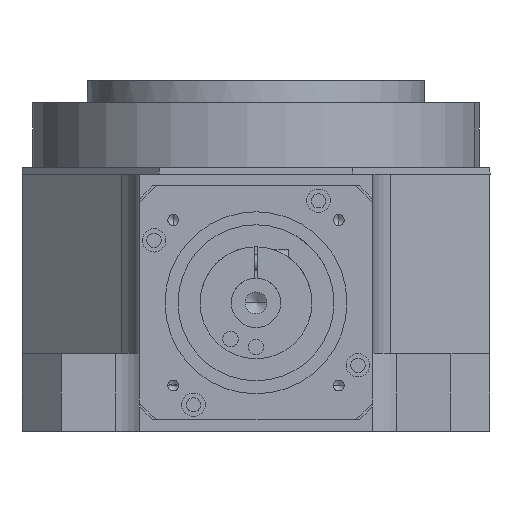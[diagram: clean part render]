
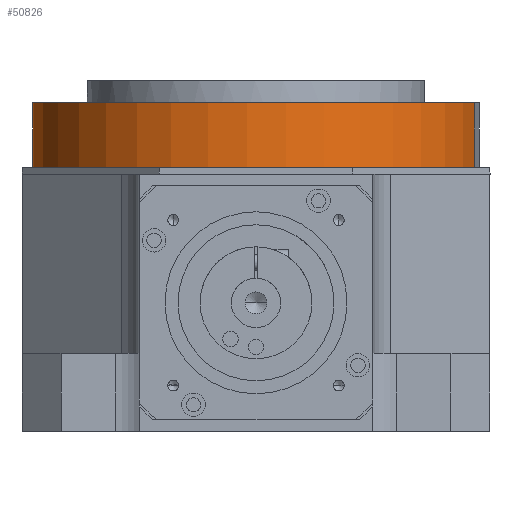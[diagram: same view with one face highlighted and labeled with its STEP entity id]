
A CAD part, front view. The second image highlights one B-rep face of the part: STEP entity #50826.
In plain terms, the highlighted cylindrical face has radius 86 mm (diameter 172 mm), a partial arc.
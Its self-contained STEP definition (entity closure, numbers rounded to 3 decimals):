
#1852 = DIRECTION ( 'NONE',  ( 1., 0., 0. ) ) ;
#2486 = CARTESIAN_POINT ( 'NONE',  ( 86., 0., 2.5 ) ) ;
#2732 = AXIS2_PLACEMENT_3D ( 'NONE', #12689, #39992, #16604 ) ;
#5552 = ORIENTED_EDGE ( 'NONE', *, *, #32516, .F. ) ;
#6860 = CARTESIAN_POINT ( 'NONE',  ( -86., 0., 2.5 ) ) ;
#7748 = CYLINDRICAL_SURFACE ( 'NONE', #12239, 86. ) ;
#8543 = ORIENTED_EDGE ( 'NONE', *, *, #47063, .T. ) ;
#9163 = VERTEX_POINT ( 'NONE', #42157 ) ;
#9747 = DIRECTION ( 'NONE',  ( 0., 0., 1. ) ) ;
#11059 = VECTOR ( 'NONE', #22969, 1000. ) ;
#11793 = CARTESIAN_POINT ( 'NONE',  ( 86., 0., 2.5 ) ) ;
#12239 = AXIS2_PLACEMENT_3D ( 'NONE', #44972, #9747, #1852 ) ;
#12689 = CARTESIAN_POINT ( 'NONE',  ( 0., 0., 27.5 ) ) ;
#14766 = LINE ( 'NONE', #2486, #45880 ) ;
#16604 = DIRECTION ( 'NONE',  ( 1., 0., 0. ) ) ;
#18993 = VERTEX_POINT ( 'NONE', #31330 ) ;
#21516 = LINE ( 'NONE', #6860, #11059 ) ;
#22457 = CARTESIAN_POINT ( 'NONE',  ( 0., 0., 2.5 ) ) ;
#22969 = DIRECTION ( 'NONE',  ( 0., 0., 1. ) ) ;
#24736 = VERTEX_POINT ( 'NONE', #11793 ) ;
#26255 = DIRECTION ( 'NONE',  ( 0., 0., 1. ) ) ;
#26408 = DIRECTION ( 'NONE',  ( 1., 0., 0. ) ) ;
#29347 = EDGE_LOOP ( 'NONE', ( #5552, #39655, #34375, #8543 ) ) ;
#31330 = CARTESIAN_POINT ( 'NONE',  ( 86., 0., 27.5 ) ) ;
#32443 = EDGE_CURVE ( 'NONE', #24736, #18993, #14766, .T. ) ;
#32516 = EDGE_CURVE ( 'NONE', #42469, #9163, #21516, .T. ) ;
#34350 = AXIS2_PLACEMENT_3D ( 'NONE', #22457, #49584, #26408 ) ;
#34375 = ORIENTED_EDGE ( 'NONE', *, *, #32443, .T. ) ;
#36722 = EDGE_CURVE ( 'NONE', #42469, #24736, #50411, .T. ) ;
#39043 = FACE_OUTER_BOUND ( 'NONE', #29347, .T. ) ;
#39655 = ORIENTED_EDGE ( 'NONE', *, *, #36722, .T. ) ;
#39992 = DIRECTION ( 'NONE',  ( 0., 0., -1. ) ) ;
#42157 = CARTESIAN_POINT ( 'NONE',  ( -86., 0., 27.5 ) ) ;
#42469 = VERTEX_POINT ( 'NONE', #49529 ) ;
#44972 = CARTESIAN_POINT ( 'NONE',  ( 0., 0., 2.5 ) ) ;
#45880 = VECTOR ( 'NONE', #26255, 1000. ) ;
#45961 = CIRCLE ( 'NONE', #2732, 86. ) ;
#47063 = EDGE_CURVE ( 'NONE', #18993, #9163, #45961, .T. ) ;
#49529 = CARTESIAN_POINT ( 'NONE',  ( -86., 0., 2.5 ) ) ;
#49584 = DIRECTION ( 'NONE',  ( 0., 0., 1. ) ) ;
#50411 = CIRCLE ( 'NONE', #34350, 86. ) ;
#50826 = ADVANCED_FACE ( 'NONE', ( #39043 ), #7748, .T. ) ;
